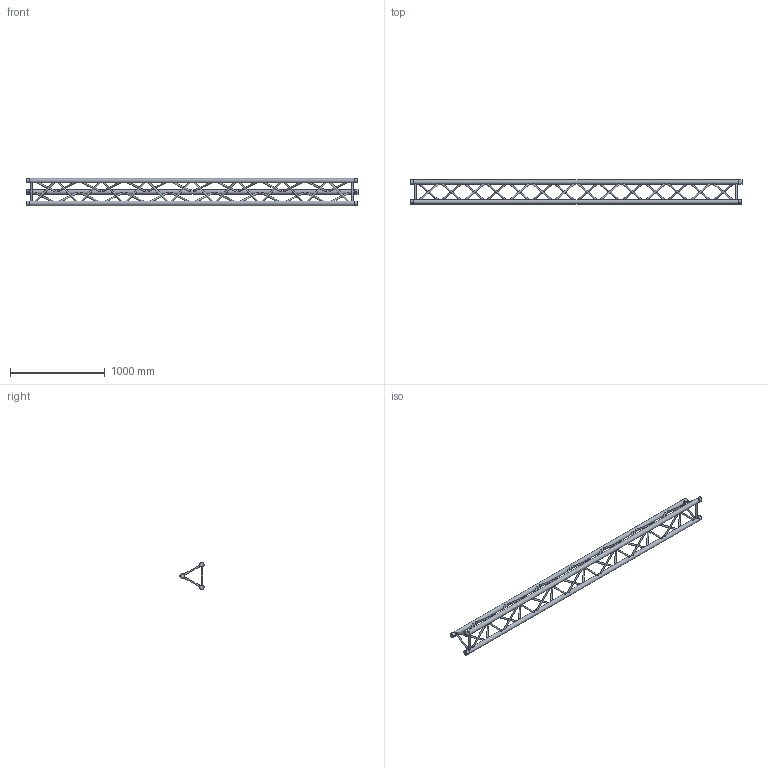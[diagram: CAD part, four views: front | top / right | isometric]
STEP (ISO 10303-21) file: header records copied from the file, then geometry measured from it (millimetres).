
FILE_DESCRIPTION(/* description */ (''),/* implementation_level */ '2;1');
FILE_NAME(/* name */ 'M:\Symbolen\STP\30-er truss\111050028.stp',/* time_stamp */ '2014-12-03T13:23:33+01:00',/* author */ ('Stephan'),/* organization */ (''),/* preprocessor_version */ 'ST-DEVELOPER v15.6',/* originating_system */ 'Autodesk Inventor 2015',/* authorisation */ '');
FILE_SCHEMA (('AUTOMOTIVE_DESIGN { 1 0 10303 214 3 1 1 }'));
Length unit declared in the file: millimetre
Products named in the file (1): 160023781
Bounding box: 3500 x 255.28 x 287.3 mm (x, y, z)
Volume: 21261564.9 mm3; surface area: 2267872.1 mm2
Topology: 45 solids, 51 shells, 189 faces, 285 edges, 198 vertices
Faces by surface type: plane 120, cylinder 63, cone 6
Full cylindrical faces by diameter (mm): 10 x6, 16 x48, 48.3 x9
Entity records: 4458 total; most frequent: CARTESIAN_POINT 934, DIRECTION 656, ORIENTED_EDGE 360, AXIS2_PLACEMENT_3D 322, EDGE_LOOP 288, STYLED_ITEM 232, FACE_OUTER_BOUND 189, ADVANCED_FACE 189
